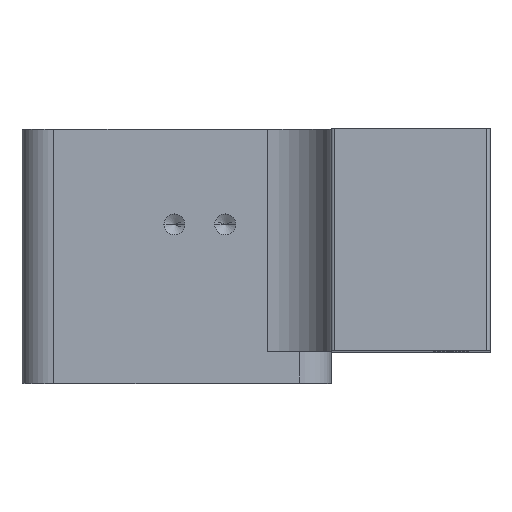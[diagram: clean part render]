
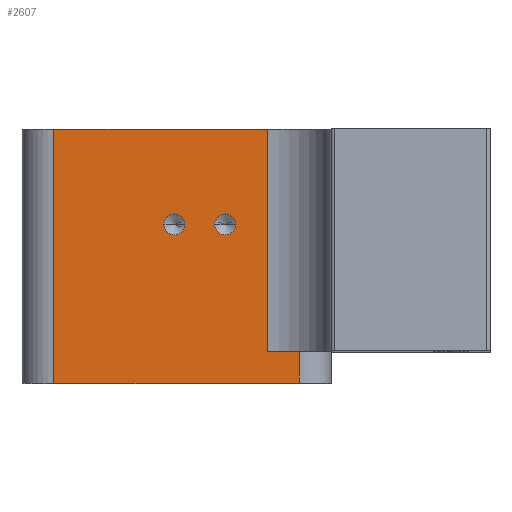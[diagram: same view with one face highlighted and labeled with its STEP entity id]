
A CAD part, top view. The second image highlights one B-rep face of the part: STEP entity #2607.
In plain terms, the highlighted planar face has unit normal (0, 0, 1).
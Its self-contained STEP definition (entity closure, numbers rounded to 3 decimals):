
#15 = ORIENTED_EDGE ( 'NONE', *, *, #656, .F. ) ;
#41 = LINE ( 'NONE', #1225, #1445 ) ;
#67 = CIRCLE ( 'NONE', #785, 1.65 ) ;
#70 = VECTOR ( 'NONE', #795, 1000. ) ;
#79 = EDGE_LOOP ( 'NONE', ( #1203, #651, #2239, #507, #960, #1676 ) ) ;
#91 = EDGE_CURVE ( 'NONE', #725, #2564, #973, .T. ) ;
#101 = AXIS2_PLACEMENT_3D ( 'NONE', #1259, #2136, #359 ) ;
#123 = CARTESIAN_POINT ( 'NONE',  ( 30.3, 25., 60. ) ) ;
#126 = CARTESIAN_POINT ( 'NONE',  ( 45., 40., 60. ) ) ;
#131 = DIRECTION ( 'NONE',  ( 1., 0., 0. ) ) ;
#169 = VECTOR ( 'NONE', #2217, 1000. ) ;
#202 = AXIS2_PLACEMENT_3D ( 'NONE', #1006, #980, #1258 ) ;
#227 = EDGE_CURVE ( 'NONE', #2343, #2184, #346, .T. ) ;
#269 = CARTESIAN_POINT ( 'NONE',  ( 38.3, 25., 60. ) ) ;
#277 = VECTOR ( 'NONE', #1160, 1000. ) ;
#282 = CARTESIAN_POINT ( 'NONE',  ( 11.3, 40., 60. ) ) ;
#314 = CIRCLE ( 'NONE', #2338, 1.65 ) ;
#346 = LINE ( 'NONE', #282, #70 ) ;
#359 = DIRECTION ( 'NONE',  ( 1., 0., 0. ) ) ;
#419 = EDGE_CURVE ( 'NONE', #894, #2742, #2589, .T. ) ;
#488 = DIRECTION ( 'NONE',  ( 0., 0., 1. ) ) ;
#507 = ORIENTED_EDGE ( 'NONE', *, *, #1403, .T. ) ;
#543 = DIRECTION ( 'NONE',  ( 0., 1., 0. ) ) ;
#552 = LINE ( 'NONE', #1273, #1620 ) ;
#578 = ORIENTED_EDGE ( 'NONE', *, *, #2454, .F. ) ;
#601 = EDGE_CURVE ( 'NONE', #1200, #2416, #314, .T. ) ;
#651 = ORIENTED_EDGE ( 'NONE', *, *, #2154, .T. ) ;
#656 = EDGE_CURVE ( 'NONE', #2564, #725, #67, .T. ) ;
#675 = AXIS2_PLACEMENT_3D ( 'NONE', #269, #488, #935 ) ;
#725 = VERTEX_POINT ( 'NONE', #780 ) ;
#780 = CARTESIAN_POINT ( 'NONE',  ( 28.65, 25., 60. ) ) ;
#782 = PLANE ( 'NONE',  #202 ) ;
#785 = AXIS2_PLACEMENT_3D ( 'NONE', #123, #1665, #131 ) ;
#795 = DIRECTION ( 'NONE',  ( -1., 0., 0. ) ) ;
#826 = CARTESIAN_POINT ( 'NONE',  ( 11.3, 0., 60. ) ) ;
#837 = EDGE_CURVE ( 'NONE', #886, #2302, #552, .T. ) ;
#886 = VERTEX_POINT ( 'NONE', #2008 ) ;
#894 = VERTEX_POINT ( 'NONE', #905 ) ;
#905 = CARTESIAN_POINT ( 'NONE',  ( 45., 5., 60. ) ) ;
#916 = DIRECTION ( 'NONE',  ( 0., 1., 0. ) ) ;
#927 = ORIENTED_EDGE ( 'NONE', *, *, #91, .F. ) ;
#935 = DIRECTION ( 'NONE',  ( 1., 0., 0. ) ) ;
#960 = ORIENTED_EDGE ( 'NONE', *, *, #227, .T. ) ;
#966 = CARTESIAN_POINT ( 'NONE',  ( 39.95, 25., 60. ) ) ;
#973 = CIRCLE ( 'NONE', #101, 1.65 ) ;
#977 = FACE_BOUND ( 'NONE', #2639, .T. ) ;
#980 = DIRECTION ( 'NONE',  ( 0., 0., -1. ) ) ;
#1006 = CARTESIAN_POINT ( 'NONE',  ( 11.3, -60., 60. ) ) ;
#1160 = DIRECTION ( 'NONE',  ( 1., 0., 0. ) ) ;
#1193 = CARTESIAN_POINT ( 'NONE',  ( 38.3, 25., 60. ) ) ;
#1200 = VERTEX_POINT ( 'NONE', #966 ) ;
#1203 = ORIENTED_EDGE ( 'NONE', *, *, #837, .F. ) ;
#1225 = CARTESIAN_POINT ( 'NONE',  ( 50., -60., 60. ) ) ;
#1252 = FACE_BOUND ( 'NONE', #2250, .T. ) ;
#1258 = DIRECTION ( 'NONE',  ( -1., 0., 0. ) ) ;
#1259 = CARTESIAN_POINT ( 'NONE',  ( 30.3, 25., 60. ) ) ;
#1273 = CARTESIAN_POINT ( 'NONE',  ( 0., 0., 60. ) ) ;
#1403 = EDGE_CURVE ( 'NONE', #894, #2343, #2490, .T. ) ;
#1433 = CARTESIAN_POINT ( 'NONE',  ( 31.95, 25., 60. ) ) ;
#1445 = VECTOR ( 'NONE', #543, 1000. ) ;
#1497 = DIRECTION ( 'NONE',  ( -1., 0., 0. ) ) ;
#1601 = ORIENTED_EDGE ( 'NONE', *, *, #601, .F. ) ;
#1620 = VECTOR ( 'NONE', #1497, 1000. ) ;
#1665 = DIRECTION ( 'NONE',  ( 0., 0., 1. ) ) ;
#1676 = ORIENTED_EDGE ( 'NONE', *, *, #1963, .F. ) ;
#1800 = CIRCLE ( 'NONE', #675, 1.65 ) ;
#1835 = CARTESIAN_POINT ( 'NONE',  ( 11.3, 40., 60. ) ) ;
#1933 = CARTESIAN_POINT ( 'NONE',  ( 45., -60., 60. ) ) ;
#1963 = EDGE_CURVE ( 'NONE', #2302, #2184, #2657, .T. ) ;
#2008 = CARTESIAN_POINT ( 'NONE',  ( 50., 0., 60. ) ) ;
#2010 = CARTESIAN_POINT ( 'NONE',  ( 50., 5., 60. ) ) ;
#2093 = VECTOR ( 'NONE', #916, 1000. ) ;
#2136 = DIRECTION ( 'NONE',  ( 0., 0., 1. ) ) ;
#2154 = EDGE_CURVE ( 'NONE', #886, #2742, #41, .T. ) ;
#2184 = VERTEX_POINT ( 'NONE', #1835 ) ;
#2217 = DIRECTION ( 'NONE',  ( 0., 1., 0. ) ) ;
#2238 = CARTESIAN_POINT ( 'NONE',  ( 45., 5., 60. ) ) ;
#2239 = ORIENTED_EDGE ( 'NONE', *, *, #419, .F. ) ;
#2250 = EDGE_LOOP ( 'NONE', ( #1601, #578 ) ) ;
#2302 = VERTEX_POINT ( 'NONE', #826 ) ;
#2338 = AXIS2_PLACEMENT_3D ( 'NONE', #1193, #2701, #2457 ) ;
#2343 = VERTEX_POINT ( 'NONE', #126 ) ;
#2388 = CARTESIAN_POINT ( 'NONE',  ( 11.3, -60., 60. ) ) ;
#2416 = VERTEX_POINT ( 'NONE', #2817 ) ;
#2454 = EDGE_CURVE ( 'NONE', #2416, #1200, #1800, .T. ) ;
#2457 = DIRECTION ( 'NONE',  ( 1., 0., 0. ) ) ;
#2490 = LINE ( 'NONE', #1933, #169 ) ;
#2564 = VERTEX_POINT ( 'NONE', #1433 ) ;
#2589 = LINE ( 'NONE', #2238, #277 ) ;
#2602 = FACE_OUTER_BOUND ( 'NONE', #79, .T. ) ;
#2607 = ADVANCED_FACE ( 'NONE', ( #977, #1252, #2602 ), #782, .F. ) ;
#2639 = EDGE_LOOP ( 'NONE', ( #15, #927 ) ) ;
#2657 = LINE ( 'NONE', #2388, #2093 ) ;
#2701 = DIRECTION ( 'NONE',  ( 0., 0., 1. ) ) ;
#2742 = VERTEX_POINT ( 'NONE', #2010 ) ;
#2817 = CARTESIAN_POINT ( 'NONE',  ( 36.65, 25., 60. ) ) ;
